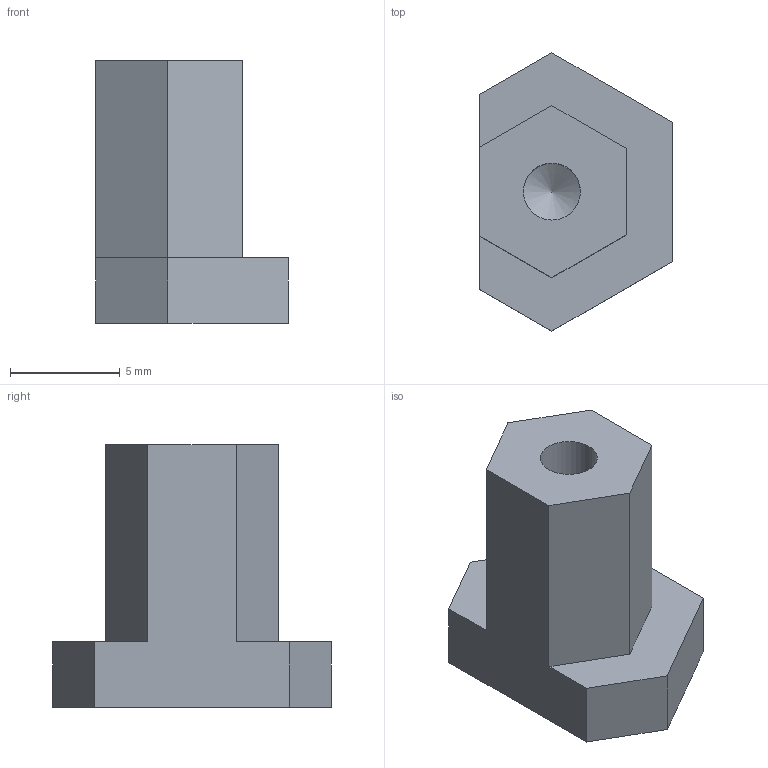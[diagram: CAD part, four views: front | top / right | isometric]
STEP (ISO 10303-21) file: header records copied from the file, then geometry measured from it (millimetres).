
FILE_DESCRIPTION(/* description */ ('STEP AP242 Edition 2','CAx-IF Rec.Pracs.---Representation and Presentation of Product Manufacturing Information (PMI)---4.0---2014-10-13','CAx-IF Rec.Pracs.---3D Tessellated Geometry---0.4---2014-09-14','2;1','CAx-IF Rec.Pracs.---User Defined Attributes---1.5---2016-08-15'),/* implementation_level */ '2;1');
FILE_NAME(/* name */ 'Enclosure - PLA Standoff Nut Special',/* time_stamp */ '2026-11-16T09:17:36Z',/* author */ (''),/* organization */ (''),/* preprocessor_version */ 'ST-DEVELOPER v20',/* originating_system */ 'ONSHAPE BY PTC INC, 1.223',/* authorisation */ ' ');
FILE_SCHEMA (('AP242_MANAGED_MODEL_BASED_3D_ENGINEERING_MIM_LF { 1 0 10303 442 3 1 4 }'));
Length unit declared in the file: metre
Products named in the file (1): PLA Standoff Nut Special
Bounding box: 8.8 x 12.7 x 12 mm (x, y, z)
Volume: 566.4 mm3; surface area: 576.3 mm2
Topology: 1 solids, 1 shells, 16 faces, 42 edges, 28 vertices
Faces by surface type: plane 14, cone 1, cylinder 1
Full cylindrical faces by diameter (mm): 2.6 x1
Entity records: 486 total; most frequent: CARTESIAN_POINT 82, ORIENTED_EDGE 76, DIRECTION 74, EDGE_CURVE 38, LINE 36, VECTOR 36, VERTEX_POINT 27, FACE_BOUND 19
